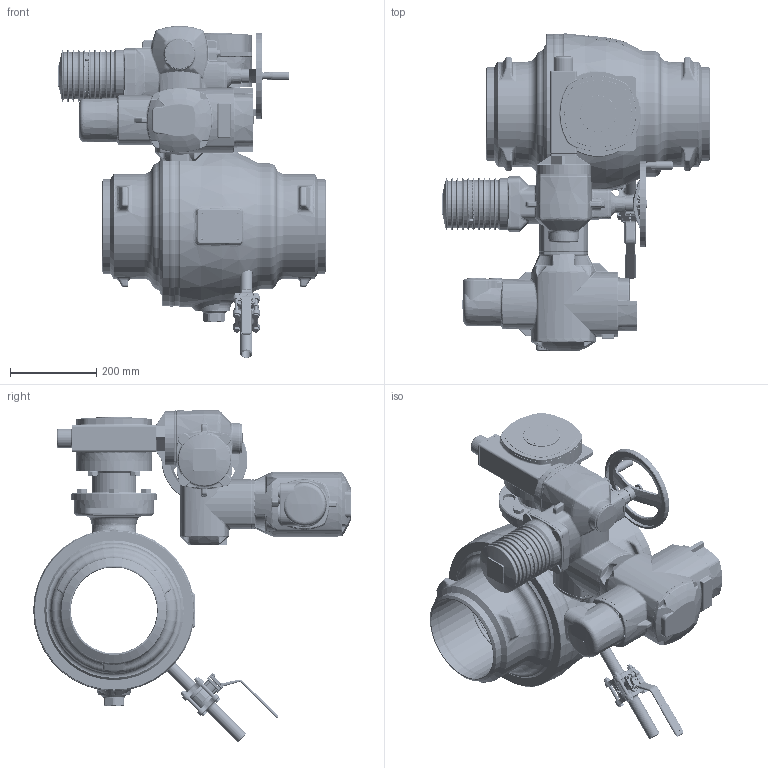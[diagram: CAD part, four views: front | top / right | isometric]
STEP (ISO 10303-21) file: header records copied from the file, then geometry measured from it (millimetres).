
FILE_DESCRIPTION((''),'2;1');
FILE_NAME('200_ASM','2017-01-16T',('schwaba'),('RAND'),'PRO/ENGINEER BY PARAMETRIC TECHNOLOGY CORPORATION, 2016100','PRO/ENGINEER BY PARAMETRIC TECHNOLOGY CORPORATION, 2016100','');
FILE_SCHEMA(('CONFIG_CONTROL_DESIGN'));
Products named in the file (3): KHSVI_200_VVSN_FR_WE_ENTL_O_IT; GS80_F14_SA10_AM_ZWSTK_DN200; 200_ASM
Assembly tree (2 placements, depth 2):
  200_ASM
    KHSVI_200_VVSN_FR_WE_ENTL_O_IT
    GS80_F14_SA10_AM_ZWSTK_DN200
Bounding box: 623.5 x 737.7 x 770.91 mm (x, y, z)
Volume: 34323707.4 mm3; surface area: 3001106 mm2
Topology: 3 solids, 11 shells, 6450 faces, 15970 edges, 9708 vertices
Faces by surface type: plane 2575, cylinder 1220, bspline 1176, torus 733, cone 563, sphere 181, extrusion 2
Entity records: 345371 total; most frequent: CARTESIAN_POINT 199666, ORIENTED_EDGE 31824, DIRECTION 29192, EDGE_CURVE 15912, AXIS2_PLACEMENT_3D 11434, VERTEX_POINT 9708, EDGE_LOOP 6766, FACE_OUTER_BOUND 6450
